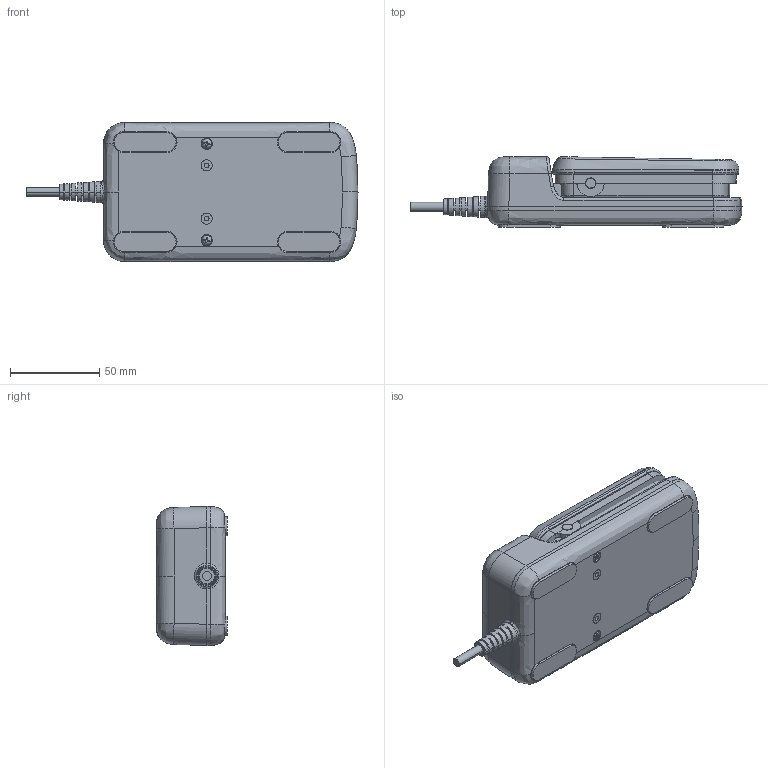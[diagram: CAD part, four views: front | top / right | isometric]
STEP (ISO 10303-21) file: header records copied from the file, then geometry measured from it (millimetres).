
FILE_DESCRIPTION (( 'STEP AP203' ), '1' );
FILE_NAME ('3D_TFS10.STEP', '2023-07-28T08:57:15', ( '' ), ( '' ), 'SwSTEP 2.0', 'SolidWorks 2015', '' );
FILE_SCHEMA (( 'CONFIG_CONTROL_DESIGN' ));
Length unit declared in the file: millimetre
Products named in the file (1): 3D_TFS10
Bounding box: 186.5 x 39.52 x 78.2 mm (x, y, z)
Volume: 401142.7 mm3; surface area: 96748.4 mm2
Topology: 18 solids, 18 shells, 575 faces, 1462 edges, 933 vertices
Faces by surface type: plane 267, cylinder 142, bspline 131, cone 19, torus 12, sphere 4
Entity records: 28219 total; most frequent: CARTESIAN_POINT 15369, ORIENTED_EDGE 2914, DIRECTION 2331, EDGE_CURVE 1457, VERTEX_POINT 932, AXIS2_PLACEMENT_3D 848, LINE 635, VECTOR 635
